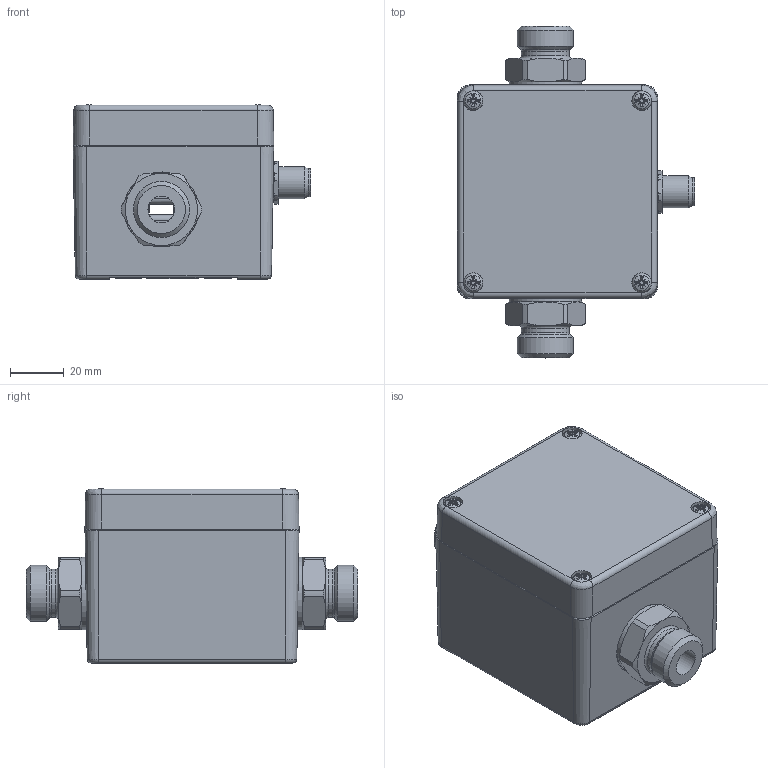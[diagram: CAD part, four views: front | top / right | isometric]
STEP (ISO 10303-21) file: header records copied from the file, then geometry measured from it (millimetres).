
FILE_DESCRIPTION(/* description */ (''),/* implementation_level */ '2;1');
FILE_NAME(/* name */ 'C:\Users\Kuelper\Desktop\VMI07ASS00YGX000.stp',/* time_stamp */ '2018-04-12T07:33:19+02:00',/* author */ ('Kuelper'),/* organization */ (''),/* preprocessor_version */ 'ST-DEVELOPER v15.2',/* originating_system */ 'Autodesk Inventor 2014',/* authorisation */ '');
FILE_SCHEMA (('AUTOMOTIVE_DESIGN { 1 0 10303 214 3 1 1 }'));
Products named in the file (1): Durchflusssensor_VMI07-Y_MID-0461_00292827
Bounding box: 88.88 x 124 x 65.04 mm (x, y, z)
Volume: 2501.3 mm3; surface area: 113407.2 mm2
Topology: 45 solids, 55 shells, 2982 faces, 7625 edges, 4898 vertices
Faces by surface type: plane 1621, bspline 542, cylinder 469, cone 218, torus 104, sphere 28
Full cylindrical faces by diameter (mm): 0.42 x10, 0.8 x5, 1 x17, 1.1 x2, 1.2 x1, 1.4 x7, 1.5 x2, 1.7 x2, 1.8 x4, 2 x10, 2.25 x4, 2.8 x1, 3 x6, 3.242 x11, 3.3 x4, 3.5 x4, 4 x4, 4.2 x2, 4.6 x4, 5.2 x1, 5.3 x1, 7 x2, 7.2 x4, 7.4 x4, 7.5 x2, 8.3 x1, 10 x2, 10.1 x1, 10.5 x1, 12 x8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
Entity records: 110533 total; most frequent: CARTESIAN_POINT 40396, ORIENTED_EDGE 14490, DIRECTION 12228, EDGE_CURVE 7218, VERTEX_POINT 4805, LINE 4300, VECTOR 4300, AXIS2_PLACEMENT_3D 3964
